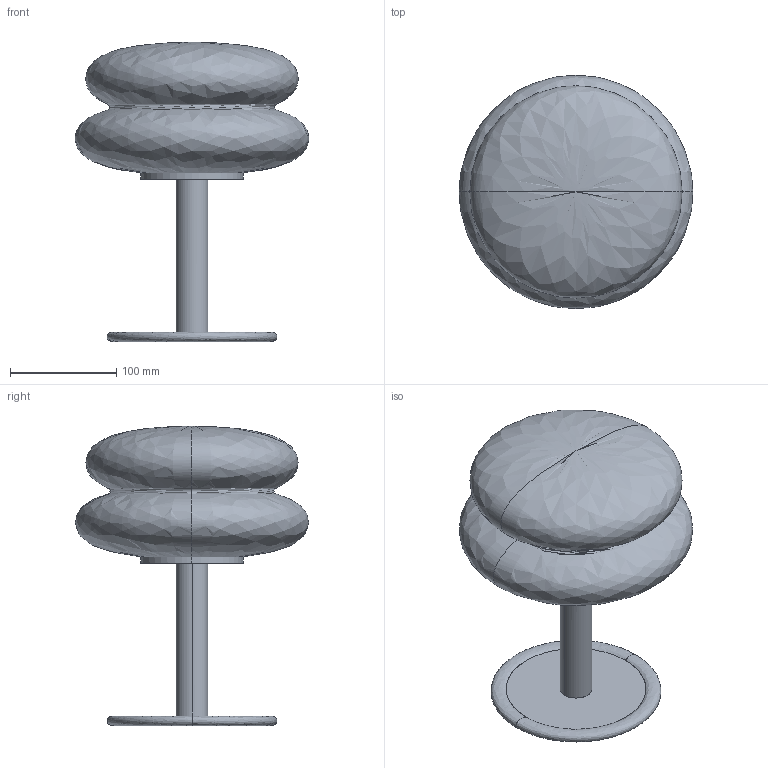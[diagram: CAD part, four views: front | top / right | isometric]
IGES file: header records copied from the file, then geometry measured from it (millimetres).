
Global section: file name: /Users/064_p/Desktop/; native system: Rhinoceros ( Jul  7 2025 ); preprocessor: Trout Lake IGES 012 Jul  7 2025; date: 260825.084245; units: millimetre
Bounding box: 219.91 x 220 x 282 mm (x, y, z)
Surface area: 197557.4 mm2 (no closed solid volume)
Topology: 0 solids, 0 shells, 12 faces, 59 edges, 57 vertices
Faces by surface type: bspline 12
